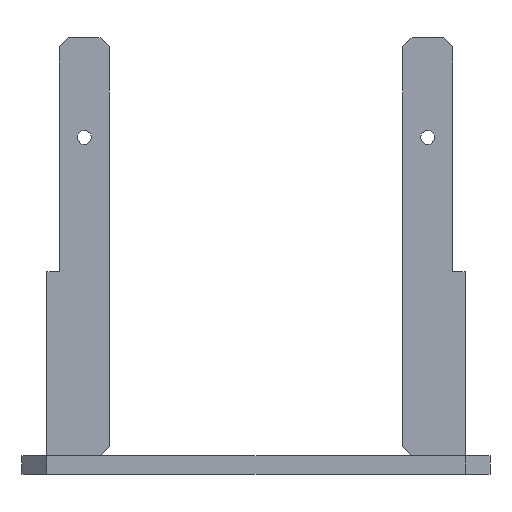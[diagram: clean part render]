
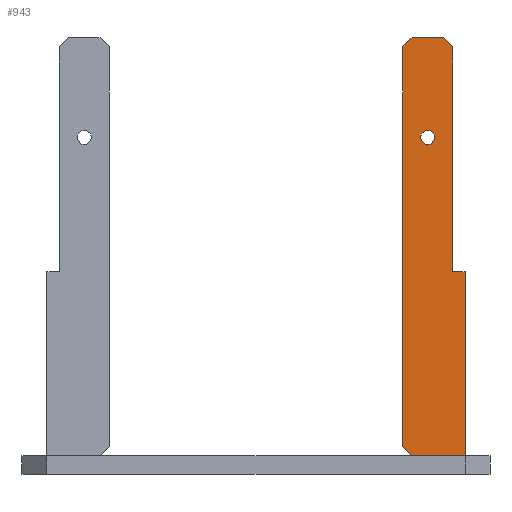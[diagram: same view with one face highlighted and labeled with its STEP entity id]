
A CAD part, front view. The second image highlights one B-rep face of the part: STEP entity #943.
In plain terms, the highlighted planar face has unit normal (0, -1, 0).
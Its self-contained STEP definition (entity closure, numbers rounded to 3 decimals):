
#11 = DIRECTION ( 'NONE',  ( 0.707, 0., 0.707 ) ) ;
#21 = CARTESIAN_POINT ( 'NONE',  ( 47., -105., 9. ) ) ;
#44 = CARTESIAN_POINT ( 'NONE',  ( 60., -105., 140. ) ) ;
#46 = CARTESIAN_POINT ( 'NONE',  ( 47., -105., 137. ) ) ;
#68 = ORIENTED_EDGE ( 'NONE', *, *, #684, .F. ) ;
#71 = FACE_BOUND ( 'NONE', #235, .T. ) ;
#91 = DIRECTION ( 'NONE',  ( 0., 0., -1. ) ) ;
#94 = VERTEX_POINT ( 'NONE', #1063 ) ;
#122 = DIRECTION ( 'NONE',  ( 0., 1., 0. ) ) ;
#136 = DIRECTION ( 'NONE',  ( 1., 0., 0. ) ) ;
#147 = ORIENTED_EDGE ( 'NONE', *, *, #1393, .F. ) ;
#153 = VERTEX_POINT ( 'NONE', #606 ) ;
#159 = CARTESIAN_POINT ( 'NONE',  ( 50., -105., 6. ) ) ;
#177 = CARTESIAN_POINT ( 'NONE',  ( 60., -105., 140. ) ) ;
#196 = PLANE ( 'NONE',  #197 ) ;
#197 = AXIS2_PLACEMENT_3D ( 'NONE', #1033, #1041, #91 ) ;
#216 = LINE ( 'NONE', #731, #703 ) ;
#235 = EDGE_LOOP ( 'NONE', ( #330, #1513 ) ) ;
#307 = VERTEX_POINT ( 'NONE', #177 ) ;
#330 = ORIENTED_EDGE ( 'NONE', *, *, #1011, .T. ) ;
#359 = CARTESIAN_POINT ( 'NONE',  ( 50., -105., 140. ) ) ;
#394 = VECTOR ( 'NONE', #1338, 1000. ) ;
#418 = DIRECTION ( 'NONE',  ( 0.707, 0., -0.707 ) ) ;
#422 = CARTESIAN_POINT ( 'NONE',  ( 67., -105., 65. ) ) ;
#444 = CARTESIAN_POINT ( 'NONE',  ( 63., -105., 137. ) ) ;
#448 = VECTOR ( 'NONE', #1199, 1000. ) ;
#457 = CARTESIAN_POINT ( 'NONE',  ( 55., -105., 108. ) ) ;
#471 = DIRECTION ( 'NONE',  ( 0., 1., 0. ) ) ;
#482 = EDGE_CURVE ( 'NONE', #1137, #1301, #1400, .T. ) ;
#528 = VECTOR ( 'NONE', #418, 1000. ) ;
#587 = CARTESIAN_POINT ( 'NONE',  ( 67., -105., 65. ) ) ;
#600 = VERTEX_POINT ( 'NONE', #1556 ) ;
#605 = AXIS2_PLACEMENT_3D ( 'NONE', #824, #471, #973 ) ;
#606 = CARTESIAN_POINT ( 'NONE',  ( 50., -105., 6. ) ) ;
#628 = VERTEX_POINT ( 'NONE', #21 ) ;
#629 = DIRECTION ( 'NONE',  ( 0., 0., 1. ) ) ;
#638 = DIRECTION ( 'NONE',  ( -1., 0., 0. ) ) ;
#652 = VECTOR ( 'NONE', #136, 1000. ) ;
#653 = LINE ( 'NONE', #359, #728 ) ;
#684 = EDGE_CURVE ( 'NONE', #1137, #1353, #1421, .T. ) ;
#701 = AXIS2_PLACEMENT_3D ( 'NONE', #457, #122, #834 ) ;
#703 = VECTOR ( 'NONE', #629, 1000. ) ;
#706 = ORIENTED_EDGE ( 'NONE', *, *, #482, .T. ) ;
#728 = VECTOR ( 'NONE', #11, 1000. ) ;
#731 = CARTESIAN_POINT ( 'NONE',  ( 47., -105., 137. ) ) ;
#780 = EDGE_CURVE ( 'NONE', #153, #628, #861, .T. ) ;
#812 = DIRECTION ( 'NONE',  ( -1., 0., 0. ) ) ;
#824 = CARTESIAN_POINT ( 'NONE',  ( 55., -105., 108. ) ) ;
#826 = EDGE_CURVE ( 'NONE', #1353, #153, #1141, .T. ) ;
#833 = VERTEX_POINT ( 'NONE', #46 ) ;
#834 = DIRECTION ( 'NONE',  ( 0., 0., 1. ) ) ;
#861 = LINE ( 'NONE', #1131, #1533 ) ;
#876 = VERTEX_POINT ( 'NONE', #1498 ) ;
#884 = ORIENTED_EDGE ( 'NONE', *, *, #826, .F. ) ;
#899 = FACE_OUTER_BOUND ( 'NONE', #916, .T. ) ;
#916 = EDGE_LOOP ( 'NONE', ( #706, #971, #147, #1501, #1031, #1200, #1268, #884, #68 ) ) ;
#943 = ADVANCED_FACE ( 'NONE', ( #899, #71 ), #196, .T. ) ;
#945 = CARTESIAN_POINT ( 'NONE',  ( 67., -105., 65. ) ) ;
#971 = ORIENTED_EDGE ( 'NONE', *, *, #1503, .F. ) ;
#973 = DIRECTION ( 'NONE',  ( 0., 0., 1. ) ) ;
#1011 = EDGE_CURVE ( 'NONE', #94, #876, #1082, .T. ) ;
#1031 = ORIENTED_EDGE ( 'NONE', *, *, #1424, .F. ) ;
#1032 = CARTESIAN_POINT ( 'NONE',  ( 63., -105., 65. ) ) ;
#1033 = CARTESIAN_POINT ( 'NONE',  ( 0., -105., 0. ) ) ;
#1041 = DIRECTION ( 'NONE',  ( 0., -1., 0. ) ) ;
#1046 = LINE ( 'NONE', #444, #528 ) ;
#1063 = CARTESIAN_POINT ( 'NONE',  ( 55., -105., 105.75 ) ) ;
#1081 = LINE ( 'NONE', #1172, #448 ) ;
#1082 = CIRCLE ( 'NONE', #701, 2.25 ) ;
#1107 = CIRCLE ( 'NONE', #605, 2.25 ) ;
#1116 = LINE ( 'NONE', #44, #652 ) ;
#1131 = CARTESIAN_POINT ( 'NONE',  ( 47., -105., 9. ) ) ;
#1137 = VERTEX_POINT ( 'NONE', #945 ) ;
#1141 = LINE ( 'NONE', #159, #1284 ) ;
#1146 = CARTESIAN_POINT ( 'NONE',  ( 67., -105., 6. ) ) ;
#1161 = EDGE_CURVE ( 'NONE', #876, #94, #1107, .T. ) ;
#1172 = CARTESIAN_POINT ( 'NONE',  ( 63., -105., 9. ) ) ;
#1178 = EDGE_CURVE ( 'NONE', #1326, #307, #1116, .T. ) ;
#1199 = DIRECTION ( 'NONE',  ( 0., 0., -1. ) ) ;
#1200 = ORIENTED_EDGE ( 'NONE', *, *, #1548, .F. ) ;
#1206 = VECTOR ( 'NONE', #812, 1000. ) ;
#1268 = ORIENTED_EDGE ( 'NONE', *, *, #780, .F. ) ;
#1270 = CARTESIAN_POINT ( 'NONE',  ( 50., -105., 140. ) ) ;
#1284 = VECTOR ( 'NONE', #638, 1000. ) ;
#1301 = VERTEX_POINT ( 'NONE', #1032 ) ;
#1326 = VERTEX_POINT ( 'NONE', #1270 ) ;
#1338 = DIRECTION ( 'NONE',  ( 0., 0., -1. ) ) ;
#1353 = VERTEX_POINT ( 'NONE', #1146 ) ;
#1393 = EDGE_CURVE ( 'NONE', #307, #600, #1046, .T. ) ;
#1400 = LINE ( 'NONE', #422, #1206 ) ;
#1421 = LINE ( 'NONE', #587, #394 ) ;
#1424 = EDGE_CURVE ( 'NONE', #833, #1326, #653, .T. ) ;
#1470 = DIRECTION ( 'NONE',  ( -0.707, 0., 0.707 ) ) ;
#1498 = CARTESIAN_POINT ( 'NONE',  ( 55., -105., 110.25 ) ) ;
#1501 = ORIENTED_EDGE ( 'NONE', *, *, #1178, .F. ) ;
#1503 = EDGE_CURVE ( 'NONE', #600, #1301, #1081, .T. ) ;
#1513 = ORIENTED_EDGE ( 'NONE', *, *, #1161, .T. ) ;
#1533 = VECTOR ( 'NONE', #1470, 1000. ) ;
#1548 = EDGE_CURVE ( 'NONE', #628, #833, #216, .T. ) ;
#1556 = CARTESIAN_POINT ( 'NONE',  ( 63., -105., 137. ) ) ;
